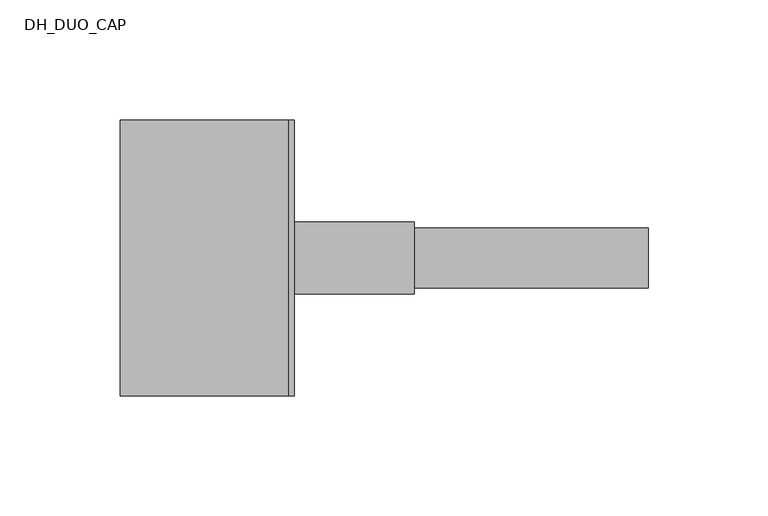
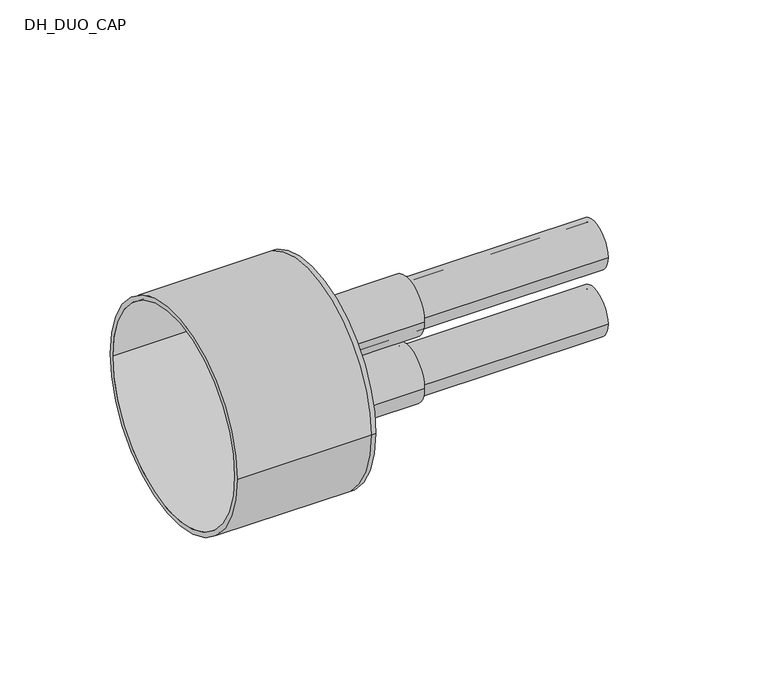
"""IFC4 building model written with IfcOpenShell, lengths in millimetres: pipe fitting geometry, DH_DUO_CAP : INSULPEX DUO + 11 Heating - Rubber Cap."""

from ifc_helpers import new_model, si_unit, point, frame, frame_2d, origin, place, context, project, spatial, polyline, circle_curve, trimmed, segment, composite_curve, outline, extrude, source, transform, mapped, element, save
from ifc_brep_helpers import plane_surface, cylinder_surface, revolved_surface, advanced_brep


def dh_duo_cap_cb6b19dd(model_context):
    return source(origin(), model_context, "Body", "SolidModel", [
        extrude(outline(composite_curve([segment(trimmed(circle_curve(frame_2d((0.0, -18.5)), 12.5), [point((-12.5, -18.5))], [point((12.5, -18.5))], False, "CARTESIAN"), True, "CONTINUOUS"), segment(trimmed(circle_curve(frame_2d((0.0, -18.5)), 12.5), [point((12.5, -18.5))], [point((-12.5, -18.5))], False, "CARTESIAN"), True, "CONTINUOUS")], self_intersect=False), holes=[composite_curve([segment(trimmed(circle_curve(frame_2d((0.0, -18.5)), 10.2), [point((-10.2, -18.5))], [point((10.2, -18.5))], True, "CARTESIAN"), True, "CONTINUOUS"), segment(trimmed(circle_curve(frame_2d((0.0, -18.5)), 10.2), [point((10.2, -18.5))], [point((-10.2, -18.5))], True, "CARTESIAN"), True, "CONTINUOUS")], self_intersect=False)]), frame((0.0, 0.0, 0.0), z_axis=(1.0, 0.0, 0.0), x_axis=(0.0, 1.0, 0.0)), (0.0, 0.0, 1.0), 150.0),
        extrude(outline(composite_curve([segment(trimmed(circle_curve(frame_2d((0.0, 18.5)), 12.5), [point((-12.5, 18.5))], [point((12.5, 18.5))], False, "CARTESIAN"), True, "CONTINUOUS"), segment(trimmed(circle_curve(frame_2d((0.0, 18.5)), 12.5), [point((12.5, 18.5))], [point((-12.5, 18.5))], False, "CARTESIAN"), True, "CONTINUOUS")], self_intersect=False), holes=[composite_curve([segment(trimmed(circle_curve(frame_2d((0.0, 18.5)), 10.2), [point((-10.2, 18.5))], [point((10.2, 18.5))], True, "CARTESIAN"), True, "CONTINUOUS"), segment(trimmed(circle_curve(frame_2d((0.0, 18.5)), 10.2), [point((10.2, 18.5))], [point((-10.2, 18.5))], True, "CARTESIAN"), True, "CONTINUOUS")], self_intersect=False)]), frame((0.0, 0.0, 0.0), z_axis=(1.0, 0.0, 0.0), x_axis=(0.0, 1.0, 0.0)), (0.0, 0.0, 1.0), 150.0),
        advanced_brep(
        [(-70.0, -57.5, 0.0), (-70.0, 57.5, 0.0), (-70.0, -55.0, 0.0), (-70.0, 55.0, 0.0), (0.0, -55.0, 0.0), (0.0, 55.0, 0.0), (0.0, -57.5, 0.0), (0.0, 57.5, 0.0), (0.0, 12.5, 18.5), (0.0, -12.5, 18.5), (0.0, 12.5, -18.5), (0.0, -12.5, -18.5), (2.5, -57.5, 0.0), (2.5, 57.5, 0.0), (2.5, -12.5, 18.5), (2.5, 12.5, 18.5), (2.5, -12.5, -18.5), (2.5, 12.5, -18.5)],
        [
            (0, 1, circle_curve(frame((-70.0, 0.0, 0.0), z_axis=(-1.0, 0.0, 0.0), x_axis=(0.0, 1.0, 0.0)), 57.5)),
            (1, 0, circle_curve(frame((-70.0, 0.0, 0.0), z_axis=(-1.0, 0.0, 0.0), x_axis=(0.0, 1.0, 0.0)), 57.5)),
            (2, 3, circle_curve(frame((-70.0, 0.0, 0.0), z_axis=(1.0, 0.0, 0.0), x_axis=(0.0, 1.0, 0.0)), 55.0)),
            (3, 2, circle_curve(frame((-70.0, 0.0, 0.0), z_axis=(1.0, 0.0, 0.0), x_axis=(0.0, 1.0, 0.0)), 55.0)),
            (2, 4),
            (4, 5, circle_curve(frame((0.0, 0.0, 0.0), z_axis=(1.0, 0.0, 0.0), x_axis=(0.0, 1.0, 0.0)), 55.0)),
            (5, 3),
            (5, 4, circle_curve(frame((0.0, 0.0, 0.0), z_axis=(1.0, 0.0, 0.0), x_axis=(0.0, 1.0, 0.0)), 55.0)),
            (0, 6),
            (6, 7, circle_curve(frame((0.0, 0.0, 0.0), z_axis=(-1.0, 0.0, 0.0), x_axis=(0.0, 1.0, 0.0)), 57.5)),
            (7, 1),
            (7, 6, circle_curve(frame((0.0, 0.0, 0.0), z_axis=(-1.0, 0.0, 0.0), x_axis=(0.0, 1.0, 0.0)), 57.5)),
            (8, 9, circle_curve(frame((0.0, 0.0, 18.5), z_axis=(1.0, 0.0, 0.0), x_axis=(0.0, 1.0, 0.0)), 12.5)),
            (9, 8, circle_curve(frame((0.0, 0.0, 18.5), z_axis=(1.0, 0.0, 0.0), x_axis=(0.0, 1.0, 0.0)), 12.5)),
            (10, 11, circle_curve(frame((0.0, 0.0, -18.5), z_axis=(1.0, 0.0, 0.0), x_axis=(0.0, 1.0, 0.0)), 12.5)),
            (11, 10, circle_curve(frame((0.0, 0.0, -18.5), z_axis=(1.0, 0.0, 0.0), x_axis=(0.0, 1.0, 0.0)), 12.5)),
            (12, 13, circle_curve(frame((2.5, 0.0, 0.0), z_axis=(1.0, 0.0, 0.0), x_axis=(0.0, 1.0, 0.0)), 57.5)),
            (13, 12, circle_curve(frame((2.5, 0.0, 0.0), z_axis=(1.0, 0.0, 0.0), x_axis=(0.0, 1.0, 0.0)), 57.5)),
            (14, 15, circle_curve(frame((2.5, 0.0, 18.5), z_axis=(-1.0, 0.0, 0.0), x_axis=(0.0, 1.0, 0.0)), 12.5)),
            (15, 14, circle_curve(frame((2.5, 0.0, 18.5), z_axis=(-1.0, 0.0, 0.0), x_axis=(0.0, 1.0, 0.0)), 12.5)),
            (16, 17, circle_curve(frame((2.5, 0.0, -18.5), z_axis=(-1.0, 0.0, 0.0), x_axis=(0.0, 1.0, 0.0)), 12.5)),
            (17, 16, circle_curve(frame((2.5, 0.0, -18.5), z_axis=(-1.0, 0.0, 0.0), x_axis=(0.0, 1.0, 0.0)), 12.5)),
            (13, 7),
            (6, 12),
            (8, 15),
            (14, 9),
            (10, 17),
            (16, 11),
        ],
        [
            plane_surface(frame((-70.0, 0.0, 0.0), z_axis=(-1.0, 0.0, 0.0), x_axis=(0.0, 0.0, 1.0))),
            revolved_surface(polyline([(0.0, 55.0, 0.0), (-70.0, 55.0, 0.0)]), (-70.0, 0.0, 0.0), (1.0, 0.0, 0.0)),
            cylinder_surface(frame((-70.0, 0.0, 0.0), z_axis=(-1.0, 0.0, 0.0), x_axis=(0.0, 1.0, 0.0)), 57.5),
            plane_surface(frame((0.0, 0.0, 0.0), z_axis=(-1.0, 0.0, 0.0), x_axis=(0.0, 0.0, 1.0))),
            plane_surface(frame((2.5, 0.0, 0.0), z_axis=(1.0, 0.0, 0.0), x_axis=(0.0, 0.0, 1.0))),
            cylinder_surface(frame((0.0, 0.0, 0.0), z_axis=(-1.0, 0.0, 0.0), x_axis=(0.0, 1.0, 0.0)), 57.5),
            revolved_surface(polyline([(0.0, 12.5, 18.5), (2.5, 12.5, 18.5)]), (0.0, 0.0, 18.5), (-1.0, 0.0, 0.0)),
            revolved_surface(polyline([(0.0, 12.5, -18.5), (2.5, 12.5, -18.5)]), (0.0, 0.0, -18.5), (-1.0, 0.0, 0.0)),
        ],
        [
            (0, [[1, 2], [3, 4]]),
            (1, [[-3, 5, 6, 7]]),
            (1, [[-4, -7, 8, -5]]),
            (2, [[-1, 9, 10, 11]]),
            (2, [[-2, -11, 12, -9]]),
            (3, [[-6, -8], [13, 14], [15, 16]]),
            (4, [[17, 18], [19, 20], [21, 22]]),
            (5, [[-18, 23, -10, 24]]),
            (5, [[-17, -24, -12, -23]]),
            (6, [[25, -19, 26, -13]]),
            (6, [[-25, -14, -26, -20]]),
            (7, [[27, -21, 28, -15]]),
            (7, [[-27, -16, -28, -22]]),
        ],
    ),
        extrude(outline(composite_curve([segment(trimmed(circle_curve(frame_2d((0.0, -18.5)), 15.0), [point((-15.0, -18.5))], [point((15.0, -18.5))], False, "CARTESIAN"), True, "CONTINUOUS"), segment(trimmed(circle_curve(frame_2d((0.0, -18.5)), 15.0), [point((15.0, -18.5))], [point((-15.0, -18.5))], False, "CARTESIAN"), True, "CONTINUOUS")], self_intersect=False), holes=[composite_curve([segment(trimmed(circle_curve(frame_2d((0.0, -18.5)), 12.5), [point((-12.5, -18.5))], [point((12.5, -18.5))], True, "CARTESIAN"), True, "CONTINUOUS"), segment(trimmed(circle_curve(frame_2d((0.0, -18.5)), 12.5), [point((12.5, -18.5))], [point((-12.5, -18.5))], True, "CARTESIAN"), True, "CONTINUOUS")], self_intersect=False)]), frame((2.5, 0.0, 0.0), z_axis=(1.0, 0.0, 0.0), x_axis=(0.0, 1.0, 0.0)), (0.0, 0.0, 1.0), 50.0),
        extrude(outline(composite_curve([segment(trimmed(circle_curve(frame_2d((0.0, 18.5)), 15.0), [point((-15.0, 18.5))], [point((15.0, 18.5))], False, "CARTESIAN"), True, "CONTINUOUS"), segment(trimmed(circle_curve(frame_2d((0.0, 18.5)), 15.0), [point((15.0, 18.5))], [point((-15.0, 18.5))], False, "CARTESIAN"), True, "CONTINUOUS")], self_intersect=False), holes=[composite_curve([segment(trimmed(circle_curve(frame_2d((0.0, 18.5)), 12.5), [point((-12.5, 18.5))], [point((12.5, 18.5))], True, "CARTESIAN"), True, "CONTINUOUS"), segment(trimmed(circle_curve(frame_2d((0.0, 18.5)), 12.5), [point((12.5, 18.5))], [point((-12.5, 18.5))], True, "CARTESIAN"), True, "CONTINUOUS")], self_intersect=False)]), frame((2.5, 0.0, 0.0), z_axis=(1.0, 0.0, 0.0), x_axis=(0.0, 1.0, 0.0)), (0.0, 0.0, 1.0), 50.0),
    ])


if __name__ == "__main__":
    model = new_model("IFC4")
    model_context = context("Model", 3, world=origin())
    ifc_project = project(units=[si_unit("LENGTHUNIT", "METRE", prefix="MILLI")], contexts=[model_context])
    site = spatial("IfcSite", under=ifc_project)
    building = spatial("IfcBuilding", under=site)
    placement = place(None, origin())
    dh_duo_cap_shape = dh_duo_cap_cb6b19dd(model_context)
    element("IfcPipeFitting", 1, ObjectType="DH_DUO_CAP : INSULPEX DUO + 11 Heating - Rubber Cap", at=placement, inside=building, context=model_context, shape_type="MappedRepresentation", body=[
        mapped(dh_duo_cap_shape, transform((0.0, 0.0, 0.0), x_axis=(1.0, 0.0, 0.0), y_axis=(0.0, 1.0, 0.0), z_axis=(0.0, 0.0, 1.0))),
    ])
    save(model, "model.ifc")
